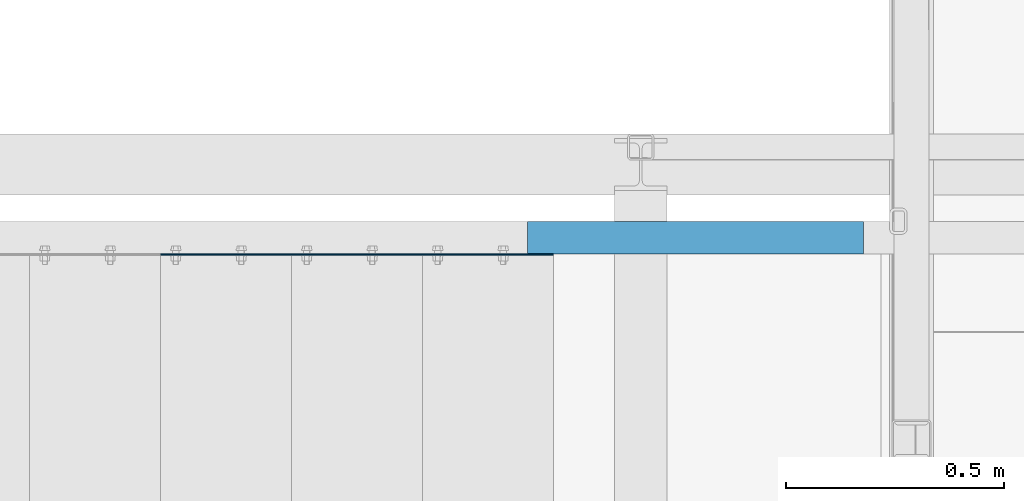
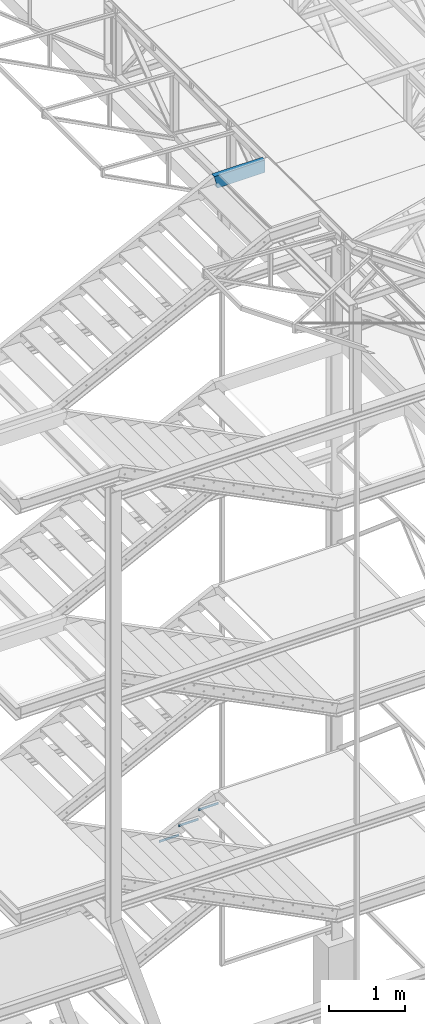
# One storey, part 72 of 132: 4 discrete accessories, 4 elements without a shape of their own.
"""IFC2X3 building model written with IfcOpenShell, lengths in millimetres."""

from ifc_helpers import new_model, si_unit, frame, origin_with_axes, origin_2d_with_axis, place, context, subcontext, project, spatial, rectangle, u_section, extrude, clip, halfspace, material, type_object, element, aggregate, save


model = new_model("IFC2X3")

# Units and contexts
model_context = context("Model", 3, precision=1e-05, world=origin_with_axes())
body_context = subcontext(model_context, "Body", "Model", "MODEL_VIEW")
ifc_project = project(units=[si_unit("LENGTHUNIT", "METRE", prefix="MILLI"), si_unit("AREAUNIT", "SQUARE_METRE"), si_unit("VOLUMEUNIT", "CUBIC_METRE"), si_unit("MASSUNIT", "GRAM", prefix="KILO"), si_unit("TIMEUNIT", "SECOND"), si_unit("PLANEANGLEUNIT", "RADIAN"), si_unit("SOLIDANGLEUNIT", "STERADIAN"), si_unit("THERMODYNAMICTEMPERATUREUNIT", "DEGREE_CELSIUS"), si_unit("LUMINOUSINTENSITYUNIT", "LUMEN")], contexts=[model_context])

# Site, building, storey
site_placement = place(None, origin_with_axes())
site = spatial("IfcSite", under=ifc_project, at=site_placement, Name="Budowa", CompositionType="ELEMENT")
building_placement = place(site_placement, origin_with_axes())
building = spatial("IfcBuilding", under=site, at=building_placement, Name="Undefined", CompositionType="ELEMENT")
storey_placement = place(building_placement, origin_with_axes())
storey = spatial("IfcBuildingStorey", under=building, at=storey_placement, Name="Undefined", CompositionType="ELEMENT", Elevation=0.0)

# Assembly, discrete accessory
assembly_1_placement = place(storey_placement, origin_with_axes())
assembly_1 = element("IfcElementAssembly", 1, at=assembly_1_placement, inside=storey, Name="Steel Assembly", AssemblyPlace="NOTDEFINED", PredefinedType="RIGID_FRAME")
ifc_material_1 = material(Name="STEEL/S235JR")
discrete_accessory_type_1 = type_object("IfcDiscreteAccessoryType", Name="ANGLE")
discrete_accessory_1_placement = place(assembly_1_placement, frame((-1120.00000008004, 10923.5000000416, 3929.99999999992), z_axis=(0.0, -1.0, 0.0), x_axis=(1.0, 0.0, 0.0)))
discrete_accessory_1 = element("IfcDiscreteAccessory", 2, at=discrete_accessory_1_placement, type_object=discrete_accessory_type_1, material=ifc_material_1, Name="ANGLE", ObjectType="3*40", context=body_context, shape_type="SweptSolid", body=[
    extrude(rectangle(XDim=40.0, YDim=3.0, at=origin_2d_with_axis()), frame((300.0, 0.0, 0.0), z_axis=(-1.0, 0.0, 0.0), x_axis=(0.0, -1.0, 0.0)), (0.0, 0.0, 1.0), 300.0),
])
aggregate(assembly_1, [discrete_accessory_1])

assembly_2_placement = place(storey_placement, origin_with_axes())
assembly_2 = element("IfcElementAssembly", 3, at=assembly_2_placement, inside=storey, Name="Steel Assembly", AssemblyPlace="NOTDEFINED", PredefinedType="RIGID_FRAME")
discrete_accessory_2_placement = place(assembly_2_placement, frame((-1420.00000008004, 10923.500000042, 3779.99999999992), z_axis=(0.0, -1.0, 0.0), x_axis=(1.0, 0.0, 0.0)))
discrete_accessory_2 = element("IfcDiscreteAccessory", 4, at=discrete_accessory_2_placement, type_object=discrete_accessory_type_1, material=ifc_material_1, Name="ANGLE", ObjectType="3*40", context=body_context, shape_type="SweptSolid", body=[
    extrude(rectangle(XDim=40.0, YDim=3.0, at=origin_2d_with_axis()), frame((300.0, 0.0, 0.0), z_axis=(-1.0, 0.0, 0.0), x_axis=(0.0, -1.0, 0.0)), (0.0, 0.0, 1.0), 300.0),
])
aggregate(assembly_2, [discrete_accessory_2])

assembly_3_placement = place(storey_placement, origin_with_axes())
assembly_3 = element("IfcElementAssembly", 5, at=assembly_3_placement, inside=storey, Name="Steel Assembly", AssemblyPlace="NOTDEFINED", PredefinedType="RIGID_FRAME")
discrete_accessory_3_placement = place(assembly_3_placement, frame((-1720.00000008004, 10923.5000000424, 3629.99999999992), z_axis=(0.0, -1.0, 0.0), x_axis=(1.0, 0.0, 0.0)))
discrete_accessory_3 = element("IfcDiscreteAccessory", 6, at=discrete_accessory_3_placement, type_object=discrete_accessory_type_1, material=ifc_material_1, Name="ANGLE", ObjectType="3*40", context=body_context, shape_type="SweptSolid", body=[
    extrude(rectangle(XDim=40.0, YDim=3.0, at=origin_2d_with_axis()), frame((300.0, 0.0, 0.0), z_axis=(-1.0, 0.0, 0.0), x_axis=(0.0, -1.0, 0.0)), (0.0, 0.0, 1.0), 300.0),
])
aggregate(assembly_3, [discrete_accessory_3])

assembly_4_placement = place(storey_placement, origin_with_axes())
assembly_4 = element("IfcElementAssembly", 7, at=assembly_4_placement, inside=storey, Name="Steel Assembly", AssemblyPlace="NOTDEFINED", PredefinedType="RIGID_FRAME")
ifc_material_2 = material(Name="STEEL/S235")
discrete_accessory_type_2 = type_object("IfcDiscreteAccessoryType", Name="BELKA")
discrete_accessory_4_placement = place(assembly_4_placement, frame((-110.000000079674, 10962.5000000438, 13900.0000000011), z_axis=(0.0, 0.0, 1.0), x_axis=(-1.0, 0.0, 0.0)))
discrete_accessory_4 = element("IfcDiscreteAccessory", 8, at=discrete_accessory_4_placement, type_object=discrete_accessory_type_2, material=ifc_material_2, Name="BELKA", ObjectType="UPN200", context=body_context, shape_type="Clipping", body=[
    clip(extrude(u_section(Depth=200.0, FlangeWidth=75.0, WebThickness=8.5, FlangeThickness=11.5, FilletRadius=11.5, EdgeRadius=6.0, at=origin_2d_with_axis()), frame((770.236067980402, 0.0, 0.0), z_axis=(-1.0, 0.0, 0.0), x_axis=(0.0, -1.0, 0.0)), (0.0, 0.0, 1.0), 770.24), halfspace(frame((770.000000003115, -37.5, 99.9999999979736), z_axis=(-0.97324898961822, 0.0, 0.229752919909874), x_axis=(0.0, -1.0, 0.0)), True)),
])
aggregate(assembly_4, [discrete_accessory_4])

save(model, "model.ifc")
